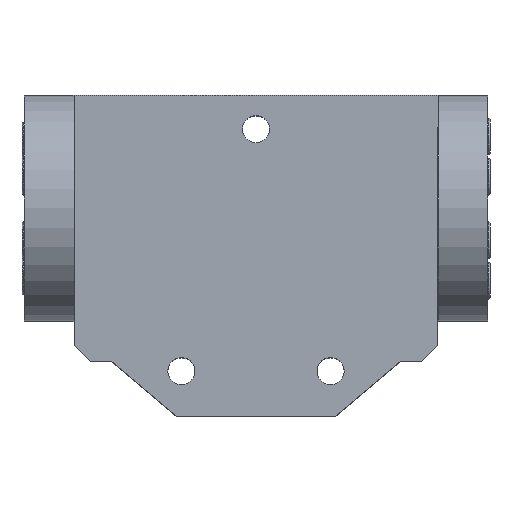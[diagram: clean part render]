
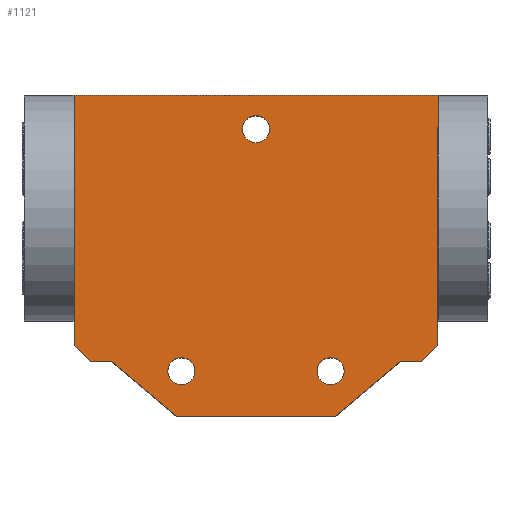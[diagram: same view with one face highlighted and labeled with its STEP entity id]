
A CAD part, top view. The second image highlights one B-rep face of the part: STEP entity #1121.
In plain terms, the highlighted planar face has unit normal (0, 0, 1).
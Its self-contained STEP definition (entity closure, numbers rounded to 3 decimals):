
#331=PLANE('',#8077);
#663=FACE_BOUND('',#2073,.T.);
#664=FACE_BOUND('',#2074,.T.);
#665=FACE_BOUND('',#2075,.T.);
#666=FACE_BOUND('',#2076,.T.);
#1121=ADVANCED_FACE('',(#663,#664,#665,#666),#331,.T.);
#2073=EDGE_LOOP('',(#3332));
#2074=EDGE_LOOP('',(#3333,#3334,#3335,#3336,#3337,#3338,#3339,#3340,#3341,
#3342));
#2075=EDGE_LOOP('',(#3343));
#2076=EDGE_LOOP('',(#3344));
#2930=CIRCLE('',#8074,6.);
#2931=CIRCLE('',#8075,6.);
#2932=CIRCLE('',#8076,6.);
#3332=ORIENTED_EDGE('',*,*,#6022,.T.);
#3333=ORIENTED_EDGE('',*,*,#5996,.T.);
#3334=ORIENTED_EDGE('',*,*,#6023,.T.);
#3335=ORIENTED_EDGE('',*,*,#6024,.T.);
#3336=ORIENTED_EDGE('',*,*,#6025,.T.);
#3337=ORIENTED_EDGE('',*,*,#6026,.T.);
#3338=ORIENTED_EDGE('',*,*,#6027,.T.);
#3339=ORIENTED_EDGE('',*,*,#6028,.T.);
#3340=ORIENTED_EDGE('',*,*,#6029,.T.);
#3341=ORIENTED_EDGE('',*,*,#5952,.T.);
#3342=ORIENTED_EDGE('',*,*,#6020,.T.);
#3343=ORIENTED_EDGE('',*,*,#6030,.F.);
#3344=ORIENTED_EDGE('',*,*,#6031,.F.);
#5209=VERTEX_POINT('',#12980);
#5210=VERTEX_POINT('',#12982);
#5253=VERTEX_POINT('',#13069);
#5254=VERTEX_POINT('',#13071);
#5277=VERTEX_POINT('',#13122);
#5278=VERTEX_POINT('',#13124);
#5279=VERTEX_POINT('',#13126);
#5280=VERTEX_POINT('',#13128);
#5281=VERTEX_POINT('',#13130);
#5282=VERTEX_POINT('',#13132);
#5283=VERTEX_POINT('',#13134);
#5284=VERTEX_POINT('',#13137);
#5285=VERTEX_POINT('',#13139);
#5952=EDGE_CURVE('',#5210,#5209,#6895,.T.);
#5996=EDGE_CURVE('',#5254,#5253,#6915,.T.);
#6020=EDGE_CURVE('',#5209,#5254,#6926,.T.);
#6022=EDGE_CURVE('',#5277,#5277,#2930,.T.);
#6023=EDGE_CURVE('',#5253,#5278,#6927,.T.);
#6024=EDGE_CURVE('',#5278,#5279,#6928,.T.);
#6025=EDGE_CURVE('',#5279,#5280,#6929,.T.);
#6026=EDGE_CURVE('',#5280,#5281,#6930,.T.);
#6027=EDGE_CURVE('',#5281,#5282,#6931,.T.);
#6028=EDGE_CURVE('',#5282,#5283,#6932,.T.);
#6029=EDGE_CURVE('',#5283,#5210,#6933,.T.);
#6030=EDGE_CURVE('',#5284,#5284,#2931,.T.);
#6031=EDGE_CURVE('',#5285,#5285,#2932,.T.);
#6895=LINE('',#12981,#7458);
#6915=LINE('',#13070,#7478);
#6926=LINE('',#13117,#7489);
#6927=LINE('',#13123,#7490);
#6928=LINE('',#13125,#7491);
#6929=LINE('',#13127,#7492);
#6930=LINE('',#13129,#7493);
#6931=LINE('',#13131,#7494);
#6932=LINE('',#13133,#7495);
#6933=LINE('',#13135,#7496);
#7458=VECTOR('',#8898,1.);
#7478=VECTOR('',#8968,1.);
#7489=VECTOR('',#9007,1.);
#7490=VECTOR('',#9014,1.);
#7491=VECTOR('',#9015,1.);
#7492=VECTOR('',#9016,1.);
#7493=VECTOR('',#9017,1.);
#7494=VECTOR('',#9018,1.);
#7495=VECTOR('',#9019,1.);
#7496=VECTOR('',#9020,1.);
#8074=AXIS2_PLACEMENT_3D('',#13121,#9012,#9013);
#8075=AXIS2_PLACEMENT_3D('',#13136,#9021,#9022);
#8076=AXIS2_PLACEMENT_3D('',#13138,#9023,#9024);
#8077=AXIS2_PLACEMENT_3D('',#13140,#9025,#9026);
#8898=DIRECTION('',(0.,1.,0.));
#8968=DIRECTION('',(0.,-1.,0.));
#9007=DIRECTION('',(-1.,0.,0.));
#9012=DIRECTION('',(0.,0.,-1.));
#9013=DIRECTION('',(-1.,0.,0.));
#9014=DIRECTION('',(0.712,-0.703,0.));
#9015=DIRECTION('',(1.,0.,0.));
#9016=DIRECTION('',(0.763,-0.646,0.));
#9017=DIRECTION('',(1.,0.,0.));
#9018=DIRECTION('',(0.763,0.646,0.));
#9019=DIRECTION('',(1.,0.,0.));
#9020=DIRECTION('',(0.712,0.703,0.));
#9021=DIRECTION('',(0.,0.,1.));
#9022=DIRECTION('',(1.,0.,0.));
#9023=DIRECTION('',(0.,0.,1.));
#9024=DIRECTION('',(1.,0.,0.));
#9025=DIRECTION('',(0.,0.,1.));
#9026=DIRECTION('',(1.,0.,0.));
#12980=CARTESIAN_POINT('',(80.5,57.5,100.));
#12981=CARTESIAN_POINT('',(80.5,-53.139,100.));
#12982=CARTESIAN_POINT('',(80.5,-53.139,100.));
#13069=CARTESIAN_POINT('',(-80.5,-53.139,100.));
#13070=CARTESIAN_POINT('',(-80.5,57.5,100.));
#13071=CARTESIAN_POINT('',(-80.5,57.5,100.));
#13117=CARTESIAN_POINT('',(80.5,57.5,100.));
#13121=CARTESIAN_POINT('',(33.,-64.5,100.));
#13122=CARTESIAN_POINT('',(27.,-64.5,100.));
#13123=CARTESIAN_POINT('',(-80.5,-53.139,100.));
#13124=CARTESIAN_POINT('',(-73.404,-60.145,100.));
#13125=CARTESIAN_POINT('',(-73.404,-60.145,100.));
#13126=CARTESIAN_POINT('',(-63.75,-60.145,100.));
#13127=CARTESIAN_POINT('',(-63.75,-60.145,100.));
#13128=CARTESIAN_POINT('',(-35.,-84.5,100.));
#13129=CARTESIAN_POINT('',(-35.,-84.5,100.));
#13130=CARTESIAN_POINT('',(35.,-84.5,100.));
#13131=CARTESIAN_POINT('',(35.,-84.5,100.));
#13132=CARTESIAN_POINT('',(63.75,-60.145,100.));
#13133=CARTESIAN_POINT('',(63.75,-60.145,100.));
#13134=CARTESIAN_POINT('',(73.404,-60.145,100.));
#13135=CARTESIAN_POINT('',(73.404,-60.145,100.));
#13136=CARTESIAN_POINT('',(0.,42.5,100.));
#13137=CARTESIAN_POINT('',(6.,42.5,100.));
#13138=CARTESIAN_POINT('',(-33.,-64.5,100.));
#13139=CARTESIAN_POINT('',(-27.,-64.5,100.));
#13140=CARTESIAN_POINT('',(0.,0.,100.));
